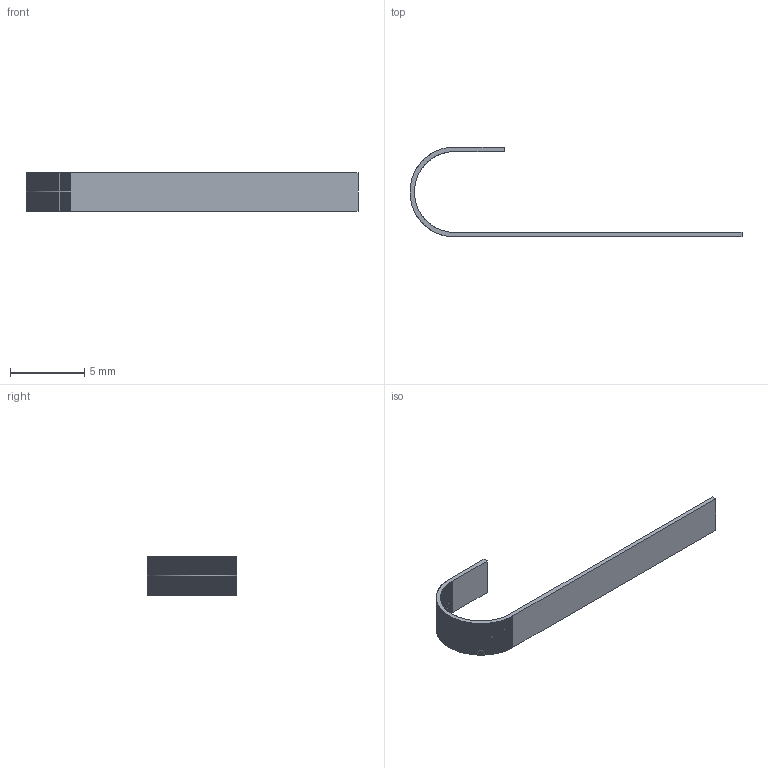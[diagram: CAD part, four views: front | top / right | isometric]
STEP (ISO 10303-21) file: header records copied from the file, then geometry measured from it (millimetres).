
FILE_DESCRIPTION(('Open CASCADE Model'),'2;1');
FILE_NAME('Open CASCADE Shape Model','2026-09-17T16:24:01',('Author'),( 'Open CASCADE'),'Open CASCADE STEP processor 7.8','Open CASCADE 7.8' ,'Unknown');
FILE_SCHEMA(('AUTOMOTIVE_DESIGN { 1 0 10303 214 1 1 1 1 }'));
Length unit declared in the file: millimetre
Products named in the file (1): Open CASCADE STEP translator 7.8 3
Bounding box: 22.32 x 6.05 x 2.6 mm (x, y, z)
Volume: 24.7 mm3; surface area: 185 mm2
Topology: 1 solids, 1 shells, 393 faces, 1173 edges, 782 vertices
Faces by surface type: plane 393
Entity records: 28186 total; most frequent: CARTESIAN_POINT 4695, DIRECTION 4307, LINE 3519, VECTOR 3519, ORIENTED_EDGE 2346, PCURVE 2346, DEFINITIONAL_REPRESENTATION 2346, EDGE_CURVE 1173
